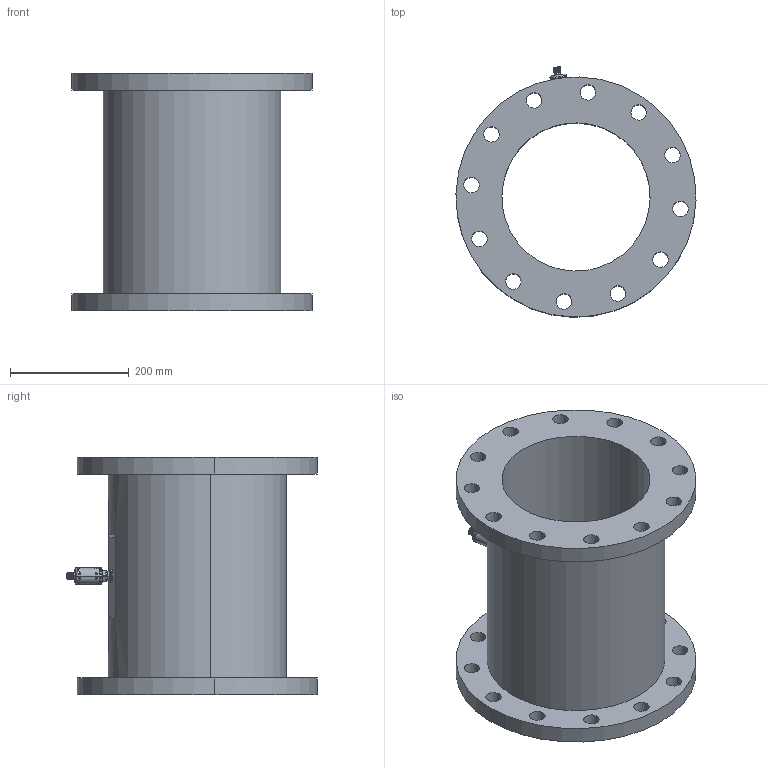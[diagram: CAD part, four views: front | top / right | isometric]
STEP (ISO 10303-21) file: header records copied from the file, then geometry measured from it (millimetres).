
FILE_DESCRIPTION (( 'STEP AP214' ), '1' );
FILE_NAME ('BFW1C250-J.STEP', '2026-01-20T07:01:09', ( '' ), ( '' ), 'SwSTEP 2.0', 'SolidWorks 2023', '' );
FILE_SCHEMA (( 'AUTOMOTIVE_DESIGN' ));
Length unit declared in the file: millimetre
Products named in the file (8): 探头; DN250法兰-华东; 垫片; 压力变送器; 连接管; 壳体; BFW1C250-J; M16螺母
Assembly tree (7 placements, depth 3):
  BFW1C250-J
    压力变送器
      壳体
      垫片
      连接管
      探头
    M16螺母
    DN250法兰-华东
Bounding box: 404.85 x 422.68 x 400 mm (x, y, z)
Volume: 11513420.9 mm3; surface area: 1033237 mm2
Topology: 6 solids, 6 shells, 285 faces, 740 edges, 481 vertices
Faces by surface type: cylinder 176, cone 50, plane 45, torus 8, bspline 6
Entity records: 13234 total; most frequent: CARTESIAN_POINT 6159, ORIENTED_EDGE 1480, DIRECTION 1402, EDGE_CURVE 740, AXIS2_PLACEMENT_3D 574, VERTEX_POINT 481, EDGE_LOOP 367, ADVANCED_FACE 285
